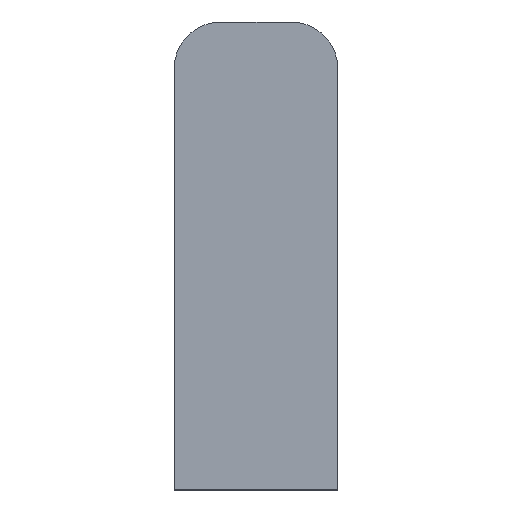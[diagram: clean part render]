
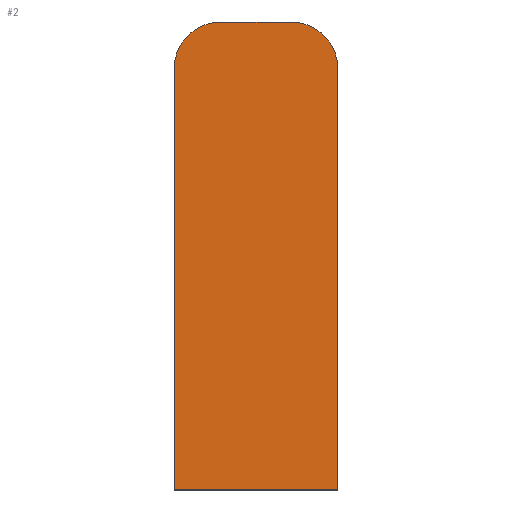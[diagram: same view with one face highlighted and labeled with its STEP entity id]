
A CAD part, front view. The second image highlights one B-rep face of the part: STEP entity #2.
In plain terms, the highlighted planar face has unit normal (0, -1, 0).
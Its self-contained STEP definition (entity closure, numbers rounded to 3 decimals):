
#2 = ADVANCED_FACE ( 'NONE', ( #269 ), #38, .F. ) ;
#16 = CARTESIAN_POINT ( 'NONE',  ( 0., 0., -1.5 ) ) ;
#17 = VERTEX_POINT ( 'NONE', #332 ) ;
#31 = VERTEX_POINT ( 'NONE', #294 ) ;
#32 = VERTEX_POINT ( 'NONE', #296 ) ;
#34 = VERTEX_POINT ( 'NONE', #352 ) ;
#38 = PLANE ( 'NONE',  #97 ) ;
#41 = VERTEX_POINT ( 'NONE', #344 ) ;
#43 = VERTEX_POINT ( 'NONE', #342 ) ;
#57 = AXIS2_PLACEMENT_3D ( 'NONE', #374, #385, #386 ) ;
#68 = EDGE_CURVE ( 'NONE', #17, #34, #218, .T. ) ;
#69 = EDGE_CURVE ( 'NONE', #31, #32, #131, .T. ) ;
#71 = EDGE_CURVE ( 'NONE', #43, #41, #220, .T. ) ;
#76 = AXIS2_PLACEMENT_3D ( 'NONE', #387, #389, #390 ) ;
#79 = EDGE_CURVE ( 'NONE', #34, #31, #134, .T. ) ;
#97 = AXIS2_PLACEMENT_3D ( 'NONE', #16, #301, #300 ) ;
#102 = EDGE_CURVE ( 'NONE', #32, #43, #245, .T. ) ;
#111 = EDGE_CURVE ( 'NONE', #41, #17, #278, .T. ) ;
#121 = ORIENTED_EDGE ( 'NONE', *, *, #68, .T. ) ;
#123 = ORIENTED_EDGE ( 'NONE', *, *, #71, .T. ) ;
#124 = ORIENTED_EDGE ( 'NONE', *, *, #102, .T. ) ;
#130 = ORIENTED_EDGE ( 'NONE', *, *, #111, .T. ) ;
#131 = LINE ( 'NONE', #382, #223 ) ;
#134 = LINE ( 'NONE', #397, #217 ) ;
#164 = EDGE_LOOP ( 'NONE', ( #124, #123, #130, #121, #197, #193 ) ) ;
#193 = ORIENTED_EDGE ( 'NONE', *, *, #69, .T. ) ;
#197 = ORIENTED_EDGE ( 'NONE', *, *, #79, .T. ) ;
#217 = VECTOR ( 'NONE', #398, 1000. ) ;
#218 = CIRCLE ( 'NONE', #57, 3. ) ;
#220 = CIRCLE ( 'NONE', #76, 3. ) ;
#223 = VECTOR ( 'NONE', #388, 1000. ) ;
#245 = LINE ( 'NONE', #421, #246 ) ;
#246 = VECTOR ( 'NONE', #422, 1000. ) ;
#269 = FACE_OUTER_BOUND ( 'NONE', #164, .T. ) ;
#278 = LINE ( 'NONE', #425, #284 ) ;
#284 = VECTOR ( 'NONE', #435, 1000. ) ;
#294 = CARTESIAN_POINT ( 'NONE',  ( -5.25, 0., -16.5 ) ) ;
#296 = CARTESIAN_POINT ( 'NONE',  ( 5.25, 0., -16.5 ) ) ;
#300 = DIRECTION ( 'NONE',  ( -1., 0., 0. ) ) ;
#301 = DIRECTION ( 'NONE',  ( 0., 1., 0. ) ) ;
#332 = CARTESIAN_POINT ( 'NONE',  ( -2.25, 0., 13.5 ) ) ;
#342 = CARTESIAN_POINT ( 'NONE',  ( 5.25, 0., 10.5 ) ) ;
#344 = CARTESIAN_POINT ( 'NONE',  ( 2.25, 0., 13.5 ) ) ;
#352 = CARTESIAN_POINT ( 'NONE',  ( -5.25, 0., 10.5 ) ) ;
#374 = CARTESIAN_POINT ( 'NONE',  ( -2.25, 0., 10.5 ) ) ;
#382 = CARTESIAN_POINT ( 'NONE',  ( 5.25, 0., -16.5 ) ) ;
#385 = DIRECTION ( 'NONE',  ( 0., -1., 0. ) ) ;
#386 = DIRECTION ( 'NONE',  ( -1., 0., 0. ) ) ;
#387 = CARTESIAN_POINT ( 'NONE',  ( 2.25, 0., 10.5 ) ) ;
#388 = DIRECTION ( 'NONE',  ( 1., 0., 0. ) ) ;
#389 = DIRECTION ( 'NONE',  ( 0., -1., 0. ) ) ;
#390 = DIRECTION ( 'NONE',  ( -1., 0., 0. ) ) ;
#397 = CARTESIAN_POINT ( 'NONE',  ( -5.25, 0., -16.5 ) ) ;
#398 = DIRECTION ( 'NONE',  ( 0., 0., -1. ) ) ;
#421 = CARTESIAN_POINT ( 'NONE',  ( 5.25, 0., -16.5 ) ) ;
#422 = DIRECTION ( 'NONE',  ( 0., 0., 1. ) ) ;
#425 = CARTESIAN_POINT ( 'NONE',  ( 2.25, 0., 13.5 ) ) ;
#435 = DIRECTION ( 'NONE',  ( -1., 0., 0. ) ) ;
